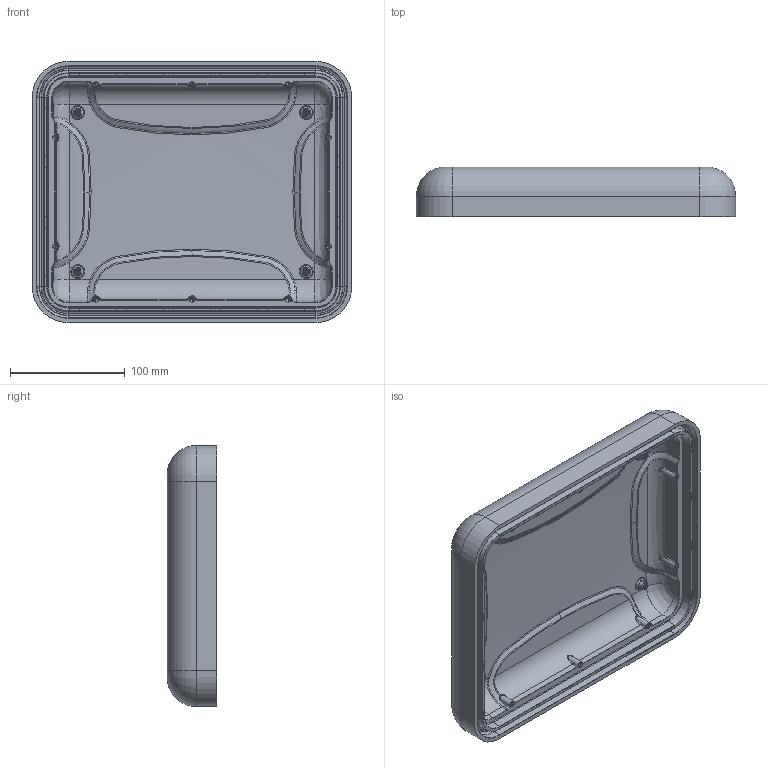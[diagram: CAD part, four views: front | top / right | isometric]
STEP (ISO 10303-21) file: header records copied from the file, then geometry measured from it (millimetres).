
FILE_DESCRIPTION (( 'STEP AP203' ), '1' );
FILE_NAME ('905_R1_Top_INNER_SURFACE_STEP.STEP', '2026-02-11T14:50:22', ( '' ), ( '' ), 'SwSTEP 2.0', 'SolidWorks 2022', '' );
FILE_SCHEMA (( 'CONFIG_CONTROL_DESIGN' ));
Length unit declared in the file: inch
Products named in the file (1): 905_R1_Top_INNER_SURFACE_STEP
Bounding box: 278.15 x 43.18 x 227.35 mm (x, y, z)
Volume: 1012347 mm3; surface area: 193832.3 mm2
Topology: 1 solids, 1 shells, 825 faces, 2066 edges, 1320 vertices
Faces by surface type: plane 307, bspline 275, torus 97, cylinder 90, cone 56
Entity records: 71936 total; most frequent: CARTESIAN_POINT 54015, ORIENTED_EDGE 4124, DIRECTION 3045, EDGE_CURVE 2062, VERTEX_POINT 1320, AXIS2_PLACEMENT_3D 1039, LINE 967, VECTOR 967
